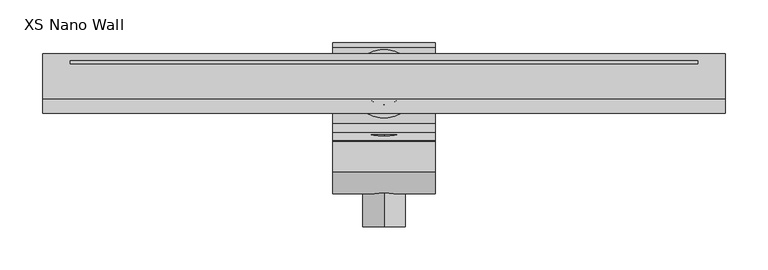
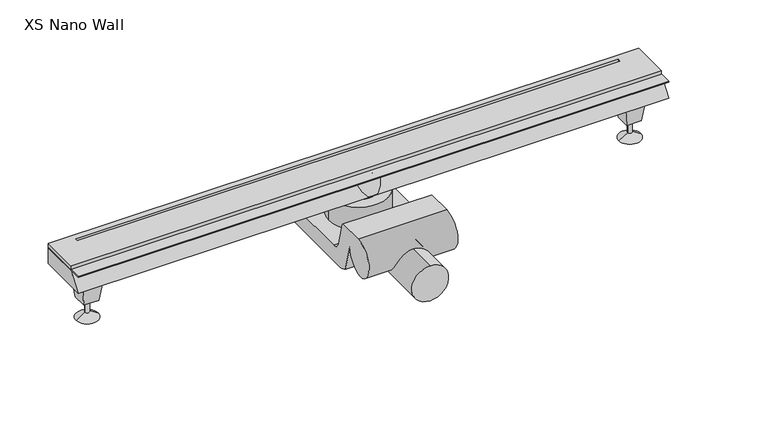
"""IFC4 building model written with IfcOpenShell, lengths in millimetres: sanitary terminal geometry, NLRS_PF_52_UN_XS Nano Wall_Easydrain : XS Nano Wall."""

from ifc_helpers import new_model, si_unit, point, frame, frame_2d, origin, origin_2d, place, context, project, spatial, polyline, circle_curve, trimmed, segment, composite_curve, outline, extrude, faceted_brep, source, transform, mapped, element, save
from ifc_brep_helpers import plane_surface, cylinder_surface, revolved_surface, advanced_brep


def xs_nano_wall_a90b67c6(model_context):
    return source(origin(), model_context, "Body", "SolidModel", [
        extrude(outline(composite_curve([segment(trimmed(circle_curve(frame_2d((-74.0, 0.0)), 25.0), [point((-99.0, 0.0))], [point((-49.0, 0.0))], False, "CARTESIAN"), True, "CONTINUOUS"), segment(trimmed(circle_curve(frame_2d((-74.0, 0.0)), 25.0), [point((-49.0, 0.0))], [point((-99.0, 0.0))], False, "CARTESIAN"), True, "CONTINUOUS")], self_intersect=False)), frame((0.0, -168.0, 0.0), z_axis=(0.0, 1.0, 0.0), x_axis=(0.0, 0.0, 1.0)), (0.0, 0.0, 1.0), 108.0),
        extrude(outline(composite_curve([segment(trimmed(circle_curve(frame_2d((43.3675767, -90.3675767)), 4.6324233), [point((48.0, -90.3675767))], [point((43.3675767, -95.0))], False, "CARTESIAN"), True, "CONTINUOUS"), segment(polyline([(43.3675767, -95.0), (-60.0, -95.0)]), True, "CONTINUOUS"), segment(trimmed(circle_curve(frame_2d((-57.5994856, -66.0429208)), 29.056409), [point((-60.0, -95.0))], [point((-73.552105, -90.3284894))], False, "CARTESIAN"), True, "CONTINUOUS"), segment(polyline([(-73.552105, -90.3284894), (-84.1621521, -51.5447741)]), True, "CONTINUOUS"), segment(trimmed(circle_curve(frame_2d((-112.4464233, -51.5447741)), 28.2842712), [point((-84.1621521, -51.5447741))], [point((-112.4464233, -79.8290454))], False, "CARTESIAN"), True, "CONTINUOUS"), segment(trimmed(circle_curve(frame_2d((-102.9818456, -55.2956944)), 26.2956944), [point((-112.4464233, -79.8290454))], [point((-102.9818456, -29.0))], False, "CARTESIAN"), True, "CONTINUOUS"), segment(polyline([(-102.9818456, -29.0), (-67.7157548, -29.0)]), True, "CONTINUOUS"), segment(trimmed(circle_curve(frame_2d((-72.2174189, -34.731688)), 7.2881566), [point((-67.7157548, -29.0))], [point((-66.5178956, -30.189369))], False, "CARTESIAN"), True, "CONTINUOUS"), segment(polyline([(-66.5178956, -30.189369), (-57.3528508, -63.0)]), True, "CONTINUOUS"), segment(trimmed(circle_curve(frame_2d((-46.2657703, -60.6709247)), 11.3290753), [point((-57.3528508, -63.0))], [point((-46.2657703, -72.0))], True, "CARTESIAN"), True, "CONTINUOUS"), segment(polyline([(-46.2657703, -72.0), (42.6324233, -72.0)]), True, "CONTINUOUS"), segment(trimmed(circle_curve(frame_2d((42.6324233, -77.3675767)), 5.3675767), [point((42.6324233, -72.0))], [point((48.0, -77.3675767))], False, "CARTESIAN"), True, "CONTINUOUS"), segment(polyline([(48.0, -77.3675767), (48.0, -90.3675767)]), True, "CONTINUOUS")], self_intersect=False)), frame((-60.0, 0.0, 0.0), z_axis=(1.0, 0.0, 0.0), x_axis=(0.0, 1.0, 0.0)), (0.0, 0.0, 1.0), 120.0),
        extrude(outline(composite_curve([segment(trimmed(circle_curve(origin_2d(), 40.0), [point((-40.0, 0.0))], [point((40.0, 0.0))], False, "CARTESIAN"), True, "CONTINUOUS"), segment(trimmed(circle_curve(origin_2d(), 40.0), [point((40.0, 0.0))], [point((-40.0, 0.0))], False, "CARTESIAN"), True, "CONTINUOUS")], self_intersect=False)), frame((0.0, 0.0, -72.0), z_axis=(0.0, 0.0, 1.0), x_axis=(1.0, 0.0, 0.0)), (0.0, 0.0, 1.0), 33.0),
        extrude(outline(composite_curve([segment(trimmed(circle_curve(origin_2d(), 25.0), [point((-25.0, 0.0))], [point((25.0, 0.0))], False, "CARTESIAN"), True, "CONTINUOUS"), segment(trimmed(circle_curve(origin_2d(), 25.0), [point((25.0, 0.0))], [point((-25.0, 0.0))], False, "CARTESIAN"), True, "CONTINUOUS")], self_intersect=False)), frame((0.0, 0.0, -39.0), z_axis=(0.0, 0.0, 1.0), x_axis=(1.0, 0.0, 0.0)), (0.0, 0.0, 1.0), 10.0),
        advanced_brep(
        [(370.5, 0.0, -69.0), (364.5, 0.0, -69.0), (367.5, 0.0, -69.0), (370.5, 0.0, -87.5), (364.5, 0.0, -87.5), (382.5, 0.0, -95.0), (352.5, 0.0, -95.0), (367.5, 0.0, -95.0)],
        [
            (0, 1, circle_curve(frame((367.5, 0.0, -69.0), z_axis=(0.0, 0.0, 1.0), x_axis=(-1.0, 0.0, 0.0)), 3.0)),
            (1, 2),
            (2, 0),
            (1, 0, circle_curve(frame((367.5, 0.0, -69.0), z_axis=(0.0, 0.0, 1.0), x_axis=(-1.0, 0.0, 0.0)), 3.0)),
            (3, 4, circle_curve(frame((367.5, 0.0, -87.5), z_axis=(0.0, 0.0, 1.0), x_axis=(-1.0, 0.0, 0.0)), 3.0)),
            (4, 1),
            (0, 3),
            (4, 3, circle_curve(frame((367.5, 0.0, -87.5), z_axis=(0.0, 0.0, 1.0), x_axis=(-1.0, 0.0, 0.0)), 3.0)),
            (5, 6, circle_curve(frame((367.5, 0.0, -95.0), z_axis=(0.0, 0.0, 1.0), x_axis=(-1.0, 0.0, 0.0)), 15.0)),
            (6, 4),
            (3, 5),
            (6, 5, circle_curve(frame((367.5, 0.0, -95.0), z_axis=(0.0, 0.0, 1.0), x_axis=(-1.0, 0.0, 0.0)), 15.0)),
            (7, 6),
            (5, 7),
        ],
        [
            plane_surface(frame((367.5, 0.0, -69.0), z_axis=(0.0, 0.0, 1.0), x_axis=(-1.0, 0.0, 0.0))),
            cylinder_surface(frame((367.5, 0.0, -103.1782032), z_axis=(0.0, 0.0, -1.0), x_axis=(-1.0, 0.0, 0.0)), 3.0),
            revolved_surface(polyline([(364.5, 0.0, -87.5), (352.5, 0.0, -95.0)]), (367.5, 0.0, -103.1782032), (0.0, 0.0, -1.0)),
            plane_surface(frame((367.5, 0.0, -95.0), z_axis=(0.0, 0.0, -1.0), x_axis=(-1.0, 0.0, 0.0))),
        ],
        [
            (0, [[1, 2, 3]]),
            (0, [[4, -3, -2]]),
            (1, [[5, 6, -1, 7]]),
            (1, [[8, -7, -4, -6]]),
            (2, [[9, 10, -5, 11]]),
            (2, [[12, -11, -8, -10]]),
            (3, [[13, -9, 14]]),
            (3, [[-14, -12, -13]]),
        ],
    ),
        faceted_brep([(357.5, 10.0, -69.0), (377.5, 10.0, -69.0), (377.5, -10.0, -69.0), (357.5, -10.0, -69.0), (352.5, 15.0, -29.0), (352.5, -15.0, -29.0), (382.5, -15.0, -29.0), (382.5, 15.0, -29.0)], [[[0, 1, 2, 3]], [[4, 5, 6, 7]], [[5, 4, 0, 3]], [[6, 5, 3, 2]], [[7, 6, 2, 1]], [[4, 7, 1, 0]]]),
        advanced_brep(
        [(-364.5, 0.0, -69.0), (-370.5, 0.0, -69.0), (-367.5, 0.0, -69.0), (-364.5, 0.0, -87.5), (-370.5, 0.0, -87.5), (-352.5, 0.0, -95.0), (-382.5, 0.0, -95.0), (-367.5, 0.0, -95.0)],
        [
            (0, 1, circle_curve(frame((-367.5, 0.0, -69.0), z_axis=(0.0, 0.0, 1.0), x_axis=(-1.0, 0.0, 0.0)), 3.0)),
            (1, 2),
            (2, 0),
            (1, 0, circle_curve(frame((-367.5, 0.0, -69.0), z_axis=(0.0, 0.0, 1.0), x_axis=(-1.0, 0.0, 0.0)), 3.0)),
            (3, 4, circle_curve(frame((-367.5, 0.0, -87.5), z_axis=(0.0, 0.0, 1.0), x_axis=(-1.0, 0.0, 0.0)), 3.0)),
            (4, 1),
            (0, 3),
            (4, 3, circle_curve(frame((-367.5, 0.0, -87.5), z_axis=(0.0, 0.0, 1.0), x_axis=(-1.0, 0.0, 0.0)), 3.0)),
            (5, 6, circle_curve(frame((-367.5, 0.0, -95.0), z_axis=(0.0, 0.0, 1.0), x_axis=(-1.0, 0.0, 0.0)), 15.0)),
            (6, 4),
            (3, 5),
            (6, 5, circle_curve(frame((-367.5, 0.0, -95.0), z_axis=(0.0, 0.0, 1.0), x_axis=(-1.0, 0.0, 0.0)), 15.0)),
            (7, 6),
            (5, 7),
        ],
        [
            plane_surface(frame((-367.5, 0.0, -69.0), z_axis=(0.0, 0.0, 1.0), x_axis=(-1.0, 0.0, 0.0))),
            cylinder_surface(frame((-367.5, 0.0, -103.1782032), z_axis=(0.0, 0.0, -1.0), x_axis=(-1.0, 0.0, 0.0)), 3.0),
            revolved_surface(polyline([(-370.5, 0.0, -87.5), (-382.5, 0.0, -95.0)]), (-367.5, 0.0, -103.1782032), (0.0, 0.0, -1.0)),
            plane_surface(frame((-367.5, 0.0, -95.0), z_axis=(0.0, 0.0, -1.0), x_axis=(-1.0, 0.0, 0.0))),
        ],
        [
            (0, [[1, 2, 3]]),
            (0, [[4, -3, -2]]),
            (1, [[5, 6, -1, 7]]),
            (1, [[8, -7, -4, -6]]),
            (2, [[9, 10, -5, 11]]),
            (2, [[12, -11, -8, -10]]),
            (3, [[13, -9, 14]]),
            (3, [[-14, -12, -13]]),
        ],
    ),
        faceted_brep([(-377.5, 10.0, -69.0), (-357.5, 10.0, -69.0), (-357.5, -10.0, -69.0), (-377.5, -10.0, -69.0), (-382.5, 15.0, -29.0), (-382.5, -15.0, -29.0), (-352.5, -15.0, -29.0), (-352.5, 15.0, -29.0)], [[[0, 1, 2, 3]], [[4, 5, 6, 7]], [[5, 4, 0, 3]], [[6, 5, 3, 2]], [[7, 6, 2, 1]], [[4, 7, 1, 0]]]),
        extrude(outline(polyline([(400.0, 35.0), (400.0, -18.0), (-400.0, -18.0), (-400.0, 35.0), (400.0, 35.0)]), holes=[polyline([(-367.5, 27.0), (-367.5, 23.0), (367.5, 23.0), (367.5, 27.0), (-367.5, 27.0)])]), frame((0.0, 0.0, -5.0), z_axis=(0.0, 0.0, 1.0), x_axis=(1.0, 0.0, 0.0)), (0.0, 0.0, 1.0), 5.0),
        extrude(outline(polyline([(400.0, 35.0), (400.0, -35.0), (-400.0, -35.0), (-400.0, 35.0), (400.0, 35.0)])), frame((0.0, 0.0, -6.4659054), z_axis=(0.0, 0.0, 1.0), x_axis=(1.0, 0.0, 0.0)), (0.0, 0.0, 1.0), 1.4659054),
        advanced_brep(
        [(-35.0, 0.0, -29.0), (35.0, 0.0, -29.0), (-25.0, 0.0, -5.0), (25.0, 0.0, -5.0)],
        [
            (0, 1, circle_curve(frame((0.0, 0.0, -29.0), z_axis=(0.0, 0.0, -1.0), x_axis=(-1.0, 0.0, 0.0)), 35.0)),
            (1, 0, circle_curve(frame((0.0, 0.0, -29.0), z_axis=(0.0, 0.0, -1.0), x_axis=(1.0, 0.0, 0.0)), 35.0)),
            (2, 3, circle_curve(frame((0.0, 0.0, -5.0), z_axis=(0.0, 0.0, 1.0), x_axis=(1.0, 0.0, 0.0)), 25.0)),
            (3, 2, circle_curve(frame((0.0, 0.0, -5.0), z_axis=(0.0, 0.0, 1.0), x_axis=(-1.0, 0.0, 0.0)), 25.0)),
            (2, 0),
            (1, 3),
        ],
        [
            plane_surface(frame((0.0, 0.0, -29.0), z_axis=(0.0, 0.0, -1.0), x_axis=(0.0, -1.0, 0.0))),
            plane_surface(frame((0.0, 0.0, -5.0), z_axis=(0.0, 0.0, 1.0), x_axis=(0.0, -1.0, 0.0))),
            revolved_surface(polyline([(-25.0, 0.0, -5.0), (-35.0, 0.0, -29.0)]), (0.0, 0.0, 55.0), (0.0, 0.0, -1.0)),
            revolved_surface(polyline([(25.0, 0.0, -5.0), (35.0, 0.0, -29.0)]), (0.0, 0.0, 55.0), (0.0, 0.0, -1.0)),
        ],
        [
            (0, [[1, 2]]),
            (1, [[3, 4]]),
            (2, [[-3, 5, -2, 6]]),
            (3, [[-4, -6, -1, -5]]),
        ],
    ),
        extrude(outline(polyline([(-18.0, -5.0), (35.0, -5.0), (35.0, -29.0), (-35.0, -29.0), (-18.0, -5.0)])), frame((-400.0, 0.0, 0.0), z_axis=(1.0, 0.0, 0.0), x_axis=(0.0, 1.0, 0.0)), (0.0, 0.0, 1.0), 800.0),
    ])


if __name__ == "__main__":
    model = new_model("IFC4")
    model_context = context("Model", 3, world=origin())
    ifc_project = project(units=[si_unit("LENGTHUNIT", "METRE", prefix="MILLI")], contexts=[model_context])
    site = spatial("IfcSite", under=ifc_project)
    building = spatial("IfcBuilding", under=site)
    placement = place(None, origin())
    xs_nano_wall_shape = xs_nano_wall_a90b67c6(model_context)
    element("IfcSanitaryTerminal", 1, ObjectType="NLRS_PF_52_UN_XS Nano Wall_Easydrain : XS Nano Wall", at=placement, inside=building, context=model_context, shape_type="MappedRepresentation", body=[
        mapped(xs_nano_wall_shape, transform((0.0, 0.0, 0.0), x_axis=(1.0, 0.0, 0.0), y_axis=(0.0, 1.0, 0.0), z_axis=(0.0, 0.0, 1.0))),
    ])
    save(model, "model.ifc")
